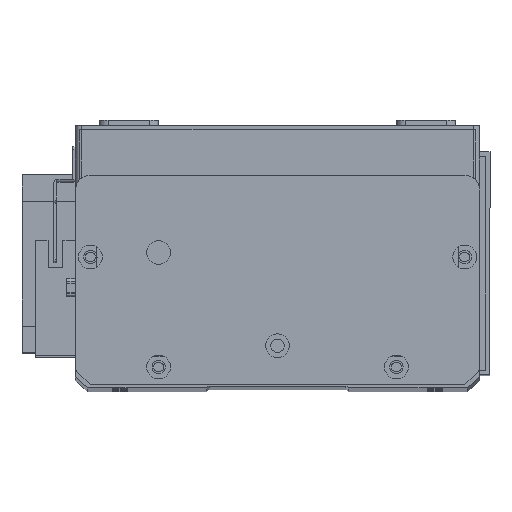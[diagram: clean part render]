
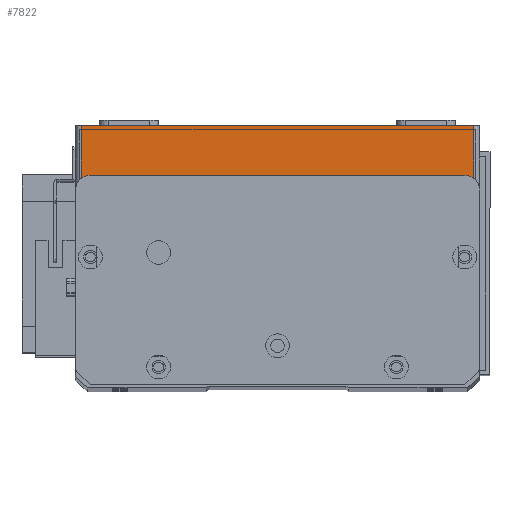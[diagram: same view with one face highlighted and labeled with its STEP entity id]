
A CAD part, top view. The second image highlights one B-rep face of the part: STEP entity #7822.
In plain terms, the highlighted planar face has unit normal (0, 0, 1) as drawn and (0, -1, 0) by its records, which use the part's own axes.
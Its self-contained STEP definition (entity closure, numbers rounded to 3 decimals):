
#514 = VERTEX_POINT ( 'NONE', #24274 ) ;
#1577 = AXIS2_PLACEMENT_3D ( 'NONE', #17855, #16351, #16230 ) ;
#2959 = VERTEX_POINT ( 'NONE', #6137 ) ;
#3129 = LINE ( 'NONE', #18963, #14244 ) ;
#4517 = DIRECTION ( 'NONE',  ( 0., 0., -1. ) ) ;
#4660 = CARTESIAN_POINT ( 'NONE',  ( 2., 0., 19.5 ) ) ;
#5681 = EDGE_CURVE ( 'NONE', #2959, #22782, #6611, .T. ) ;
#5932 = VECTOR ( 'NONE', #4517, 1000. ) ;
#6137 = CARTESIAN_POINT ( 'NONE',  ( 2., 0., 19.5 ) ) ;
#6611 = LINE ( 'NONE', #4660, #5932 ) ;
#7284 = VECTOR ( 'NONE', #23825, 1000. ) ;
#7822 = ADVANCED_FACE ( 'NONE', ( #12157 ), #16740, .F. ) ;
#10281 = EDGE_LOOP ( 'NONE', ( #22195, #17196, #18907, #22902 ) ) ;
#11336 = DIRECTION ( 'NONE',  ( 1., 0., 0. ) ) ;
#11672 = VECTOR ( 'NONE', #11336, 1000. ) ;
#12070 = CARTESIAN_POINT ( 'NONE',  ( 0., 0., 0. ) ) ;
#12157 = FACE_OUTER_BOUND ( 'NONE', #10281, .T. ) ;
#12489 = VERTEX_POINT ( 'NONE', #17252 ) ;
#13082 = EDGE_CURVE ( 'NONE', #2959, #12489, #25027, .T. ) ;
#14244 = VECTOR ( 'NONE', #21240, 1000. ) ;
#15119 = EDGE_CURVE ( 'NONE', #22782, #514, #23547, .T. ) ;
#16230 = DIRECTION ( 'NONE',  ( 0., 0., 1. ) ) ;
#16351 = DIRECTION ( 'NONE',  ( 0., 1., 0. ) ) ;
#16740 = PLANE ( 'NONE',  #1577 ) ;
#17196 = ORIENTED_EDGE ( 'NONE', *, *, #5681, .T. ) ;
#17252 = CARTESIAN_POINT ( 'NONE',  ( 134., 0., 19.5 ) ) ;
#17855 = CARTESIAN_POINT ( 'NONE',  ( 0., 0., 19.5 ) ) ;
#18907 = ORIENTED_EDGE ( 'NONE', *, *, #15119, .T. ) ;
#18963 = CARTESIAN_POINT ( 'NONE',  ( 134., 0., 19.5 ) ) ;
#21240 = DIRECTION ( 'NONE',  ( 0., 0., 1. ) ) ;
#22195 = ORIENTED_EDGE ( 'NONE', *, *, #13082, .F. ) ;
#22693 = CARTESIAN_POINT ( 'NONE',  ( 2., 0., 0. ) ) ;
#22782 = VERTEX_POINT ( 'NONE', #22693 ) ;
#22902 = ORIENTED_EDGE ( 'NONE', *, *, #27581, .T. ) ;
#23547 = LINE ( 'NONE', #12070, #11672 ) ;
#23825 = DIRECTION ( 'NONE',  ( 1., 0., 0. ) ) ;
#24274 = CARTESIAN_POINT ( 'NONE',  ( 134., 0., 0. ) ) ;
#24554 = CARTESIAN_POINT ( 'NONE',  ( 0., 0., 19.5 ) ) ;
#25027 = LINE ( 'NONE', #24554, #7284 ) ;
#27581 = EDGE_CURVE ( 'NONE', #514, #12489, #3129, .T. ) ;
